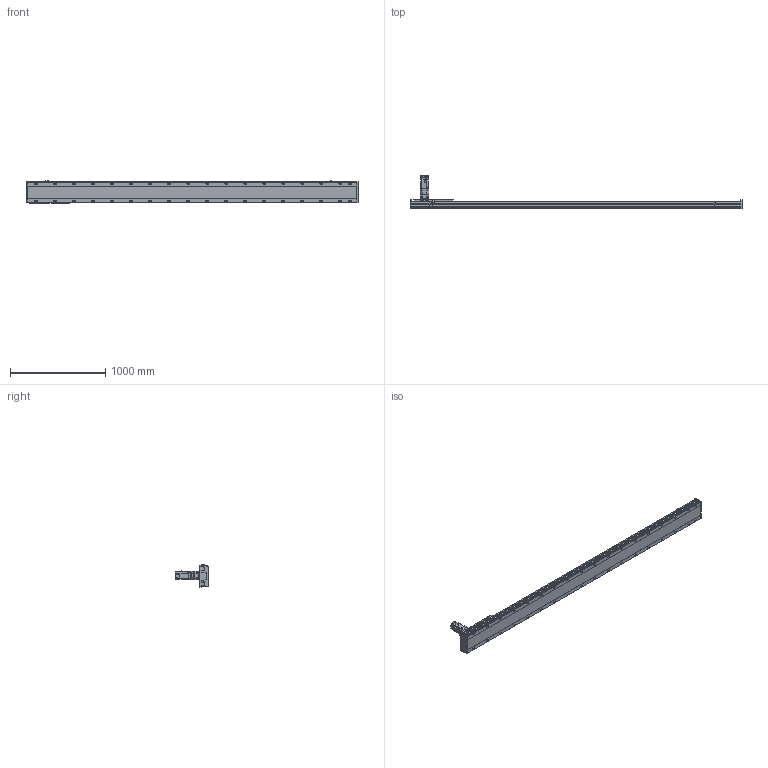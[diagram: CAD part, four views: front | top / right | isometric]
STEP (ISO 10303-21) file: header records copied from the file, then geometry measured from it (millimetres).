
FILE_DESCRIPTION(/* description */ ('STEP AP214'),/* implementation_level */ '2;1');
FILE_NAME(/* name */ 'SHS22A-L13-S3000-BC-T75-C1-N(0)',/* time_stamp */ '2022-06-15T02:27:54+02:00',/* author */ ('License CC BY-ND 4.0'),/* organization */ ('CADENAS'),/* preprocessor_version */ 'ST-DEVELOPER v18.102',/* originating_system */ 'PARTsolutions',/* authorisation */ ' ');
FILE_SCHEMA (('AUTOMOTIVE_DESIGN {1 0 10303 214 3 1 1}'));
Length unit declared in the file: millimetre
Products named in the file (7): SHS22A-L13-S3000-BC-T75-C1-N(0); PSC140-sensor; SHS22A-S3000_body2; T75-p1; SHS22A-S3000_body3; SHS22A-S3000_slider; SHS22A-L13-S3000-BC-T75-C1(0)_body
Assembly tree (13 placements, depth 2):
  SHS22A-L13-S3000-BC-T75-C1-N(0)
    PSC140-sensor  x3
    SHS22A-S3000_body2  x6
    T75-p1
    SHS22A-S3000_body3
    SHS22A-S3000_slider
    SHS22A-L13-S3000-BC-T75-C1(0)_body
Bounding box: 3494 x 350.8 x 238.4 mm (x, y, z)
Volume: 38133521.4 mm3; surface area: 3932590.7 mm2
Topology: 13 solids, 13 shells, 1917 faces, 4919 edges, 3220 vertices
Faces by surface type: plane 1352, cylinder 455, cone 101, torus 9
Full cylindrical faces by diameter (mm): 2.8 x3, 4.2 x2, 4.6 x3, 4.917 x4, 5 x4, 5.6 x24, 6 x31, 6.6 x24, 6.647 x8, 6.8 x9, 7.75 x6, 8 x3, 8.376 x36, 8.5 x36, 10 x4, 11 x4, 12 x24, 14 x36, 22 x1, 24.1 x1, 28 x1, 28.2 x1, 28.8 x1, 48.542 x1, 68 x1, 70 x1, 78 x1, 80 x2
Entity records: 32219 total; most frequent: CARTESIAN_POINT 5801, DIRECTION 5459, ORIENTED_EDGE 4908, EDGE_CURVE 2454, AXIS2_PLACEMENT_3D 1940, VERTEX_POINT 1774, FACE_BOUND 1708, EDGE_LOOP 1707
